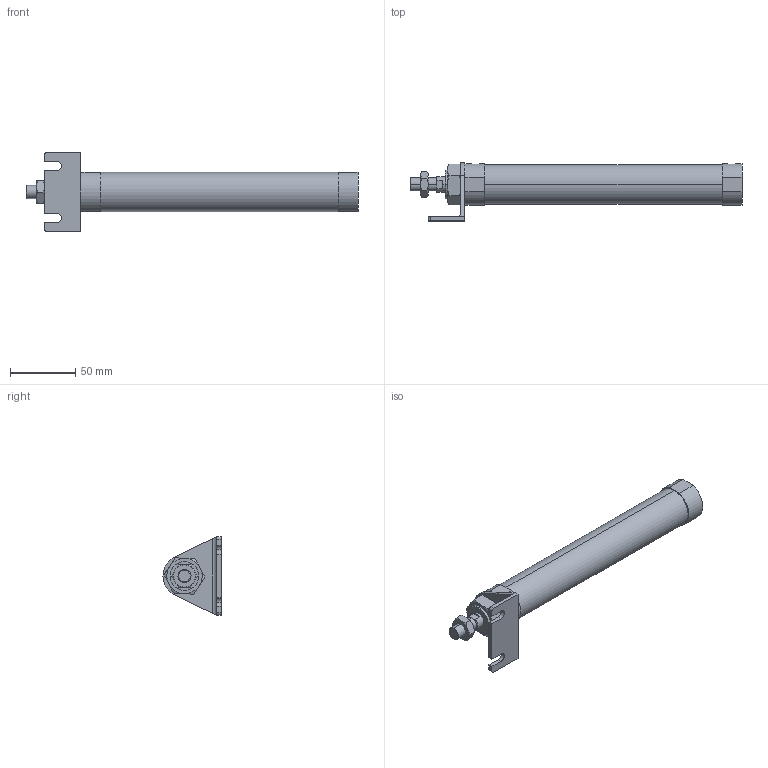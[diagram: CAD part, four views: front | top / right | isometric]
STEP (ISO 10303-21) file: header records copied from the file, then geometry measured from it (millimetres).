
FILE_DESCRIPTION (( 'STEP AP203' ), '1' );
FILE_NAME ('JGND2-25-150-L.STEP', '2016-08-04T02:42:29', ( '' ), ( '' ), 'SwSTEP 2.0', 'SolidWorks 2014', '' );
FILE_SCHEMA (( 'CONFIG_CONTROL_DESIGN' ));
Length unit declared in the file: millimetre
Products named in the file (5): J#2-25-L; JGND2-25-150-L; J#2-25-150(P)
Assembly tree (4 placements, depth 2):
  JGND2-25-150-L
    J#2-25-150(P)
    (unnamed)
    (unnamed)
    J#2-25-L
Bounding box: 254 x 44.5 x 60 mm (x, y, z)
Volume: 170776.8 mm3; surface area: 34551.8 mm2
Topology: 4 solids, 4 shells, 115 faces, 268 edges, 162 vertices
Faces by surface type: plane 50, cylinder 33, torus 24, cone 8
Entity records: 4077 total; most frequent: CARTESIAN_POINT 994, DIRECTION 542, ORIENTED_EDGE 528, EDGE_CURVE 264, AXIS2_PLACEMENT_3D 214, VERTEX_POINT 162, EDGE_LOOP 126, FACE_OUTER_BOUND 115
